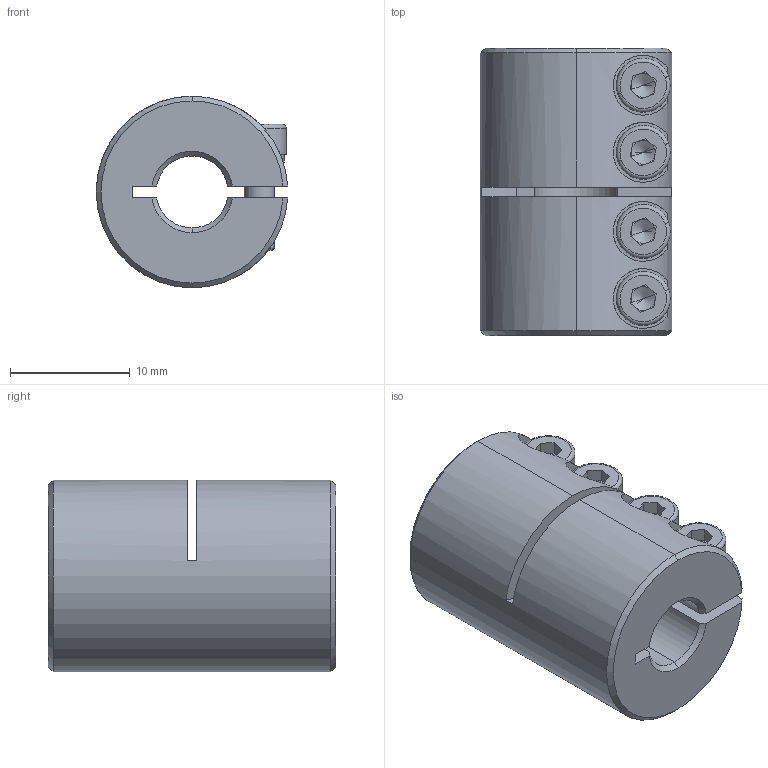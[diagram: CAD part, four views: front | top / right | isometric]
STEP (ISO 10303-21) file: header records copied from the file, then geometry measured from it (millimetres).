
FILE_DESCRIPTION (( 'STEP AP203' ), '1' );
FILE_NAME ('LL-B-D16L24-6-7.STEP', '2021-11-03T04:37:31', ( '' ), ( '' ), 'SwSTEP 2.0', 'SolidWorks 2018', '' );
FILE_SCHEMA (( 'CONFIG_CONTROL_DESIGN' ));
Length unit declared in the file: millimetre
Products named in the file (1): LL-B-D16L24-6-7
Bounding box: 15.98 x 24 x 16 mm (x, y, z)
Volume: 3724.3 mm3; surface area: 2929.6 mm2
Topology: 1 solids, 1 shells, 205 faces, 527 edges, 328 vertices
Faces by surface type: plane 92, cylinder 77, cone 28, torus 8
Entity records: 6642 total; most frequent: CARTESIAN_POINT 1521, DIRECTION 1103, ORIENTED_EDGE 1038, EDGE_CURVE 519, AXIS2_PLACEMENT_3D 430, VERTEX_POINT 328, VECTOR 243, LINE 243
